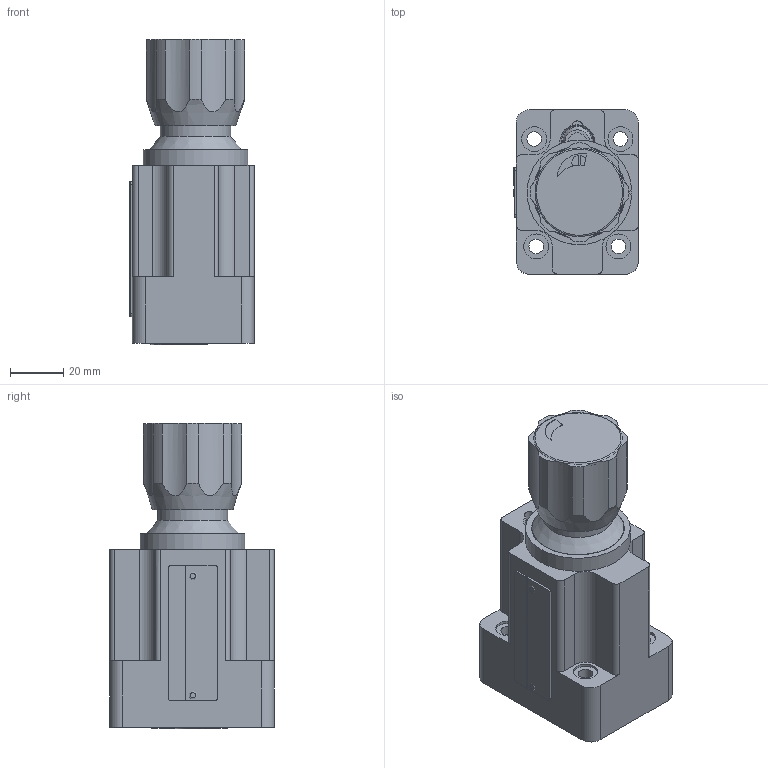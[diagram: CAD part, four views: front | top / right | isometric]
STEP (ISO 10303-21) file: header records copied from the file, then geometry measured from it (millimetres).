
FILE_DESCRIPTION(/* description */ (''),/* implementation_level */ '2;1');
FILE_NAME(/* name */ '2FRM6-76-3XJ-R调速阀.prt.stp',/* time_stamp */ '2022-03-30T19:55:43+08:00',/* author */ (''),/* organization */ (''),/* preprocessor_version */ 'ST-DEVELOPER v16.7',/* originating_system */ 'SIEMENS PLM Software NX 12.0',/* authorisation */ '');
FILE_SCHEMA (('AUTOMOTIVE_DESIGN { 1 0 10303 214 3 1 1 1 }'));
Length unit declared in the file: millimetre
Products named in the file (1): 2FRM6-76-3XJ-R调速阀
Bounding box: 47 x 62.04 x 115.35 mm (x, y, z)
Volume: 197221.7 mm3; surface area: 47828.9 mm2
Topology: 20 solids, 27 shells, 440 faces, 1079 edges, 709 vertices
Faces by surface type: plane 185, cylinder 144, extrusion 49, torus 25, cone 20, bspline 17
Full cylindrical faces by diameter (mm): 1.8 x6, 2.2 x2, 3 x3, 3.2 x1, 5 x1, 5.5 x4, 6 x4, 7 x1, 9.4 x4, 9.6 x1, 12 x3, 12.2 x3, 12.846 x1, 14.5 x1, 18 x2, 21.8 x2, 25 x1, 26 x1, 26.5 x1, 27.5 x1, 33.5 x1, 34.7 x1
Entity records: 25499 total; most frequent: CARTESIAN_POINT 14764, ORIENTED_EDGE 1916, DIRECTION 1835, EDGE_CURVE 958, VERTEX_POINT 681, AXIS2_PLACEMENT_3D 674, EDGE_LOOP 565, VECTOR 487
